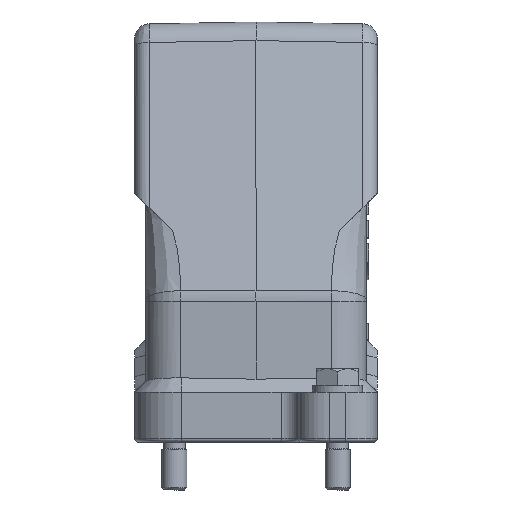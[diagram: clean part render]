
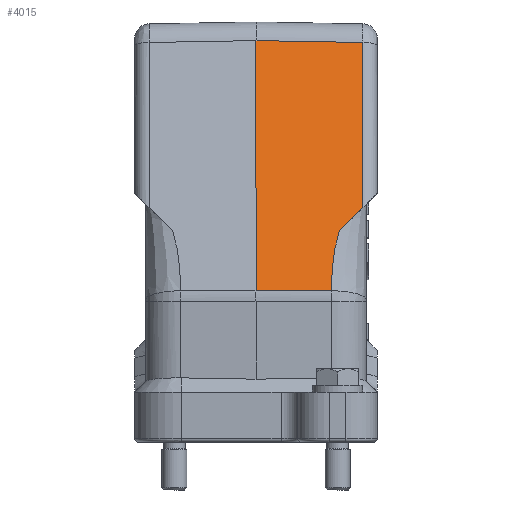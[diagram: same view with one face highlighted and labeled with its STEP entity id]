
A CAD part, left-side view. The second image highlights one B-rep face of the part: STEP entity #4015.
In plain terms, the highlighted planar face has unit normal (-0.966, -0.018, 0.259).
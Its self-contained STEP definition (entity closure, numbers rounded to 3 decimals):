
#3556=FACE_OUTER_BOUND('',#4977,.T.);
#4015=ADVANCED_FACE('',(#3556),#4544,.F.);
#4544=PLANE('',#12924);
#4977=EDGE_LOOP('',(#7116,#7117,#7118,#7119,#7120,#7121));
#5609=LINE('',#17277,#6336);
#5610=LINE('',#17280,#6337);
#5611=LINE('',#17282,#6338);
#5612=LINE('',#17313,#6339);
#6336=VECTOR('',#13666,1.);
#6337=VECTOR('',#13667,1.);
#6338=VECTOR('',#13668,1.);
#6339=VECTOR('',#13669,1.);
#7116=ORIENTED_EDGE('',*,*,#10432,.F.);
#7117=ORIENTED_EDGE('',*,*,#10433,.F.);
#7118=ORIENTED_EDGE('',*,*,#10434,.F.);
#7119=ORIENTED_EDGE('',*,*,#10435,.F.);
#7120=ORIENTED_EDGE('',*,*,#10436,.F.);
#7121=ORIENTED_EDGE('',*,*,#10437,.F.);
#9618=VERTEX_POINT('',#17278);
#9619=VERTEX_POINT('',#17279);
#9620=VERTEX_POINT('',#17281);
#9621=VERTEX_POINT('',#17283);
#9622=VERTEX_POINT('',#17307);
#9623=VERTEX_POINT('',#17312);
#10432=EDGE_CURVE('',#9618,#9619,#5609,.T.);
#10433=EDGE_CURVE('',#9620,#9618,#5610,.T.);
#10434=EDGE_CURVE('',#9621,#9620,#5611,.T.);
#10435=EDGE_CURVE('',#9622,#9621,#12031,.T.);
#10436=EDGE_CURVE('',#9623,#9622,#12032,.T.);
#10437=EDGE_CURVE('',#9619,#9623,#5612,.T.);
#12031=B_SPLINE_CURVE_WITH_KNOTS('',3,(#17284,#17285,#17286,#17287,#17288,
#17289,#17290,#17291,#17292,#17293,#17294,#17295,#17296,#17297,#17298,#17299,
#17300,#17301,#17302,#17303,#17304,#17305,#17306),.UNSPECIFIED.,.F.,.F.,
(4,1,1,1,1,1,1,1,1,1,1,1,1,1,1,1,1,1,1,1,4),(0.,0.132,0.261,
0.324,0.387,0.511,0.572,
0.634,0.695,0.756,0.787,
0.818,0.848,0.879,0.894,
0.909,0.925,0.94,0.97,
0.986,1.),.UNSPECIFIED.);
#12032=B_SPLINE_CURVE_WITH_KNOTS('',3,(#17308,#17309,#17310,#17311),
 .UNSPECIFIED.,.F.,.F.,(4,4),(0.,1.),.UNSPECIFIED.);
#12924=AXIS2_PLACEMENT_3D('',#17314,#13670,#13671);
#13666=DIRECTION('',(0.013,-1.,-0.017));
#13667=DIRECTION('',(0.259,0.,0.966));
#13668=DIRECTION('',(-0.017,1.,0.002));
#13669=DIRECTION('',(-0.259,0.,-0.966));
#13670=DIRECTION('',(0.966,0.017,-0.259));
#13671=DIRECTION('',(0.259,0.,0.966));
#17277=CARTESIAN_POINT('',(-35.141,0.,78.054));
#17278=CARTESIAN_POINT('',(-35.141,0.,78.054));
#17279=CARTESIAN_POINT('',(-34.798,-25.561,77.607));
#17280=CARTESIAN_POINT('',(-51.159,0.,18.271));
#17281=CARTESIAN_POINT('',(-51.159,0.,18.271));
#17282=CARTESIAN_POINT('',(-50.844,-18.054,18.23));
#17283=CARTESIAN_POINT('',(-50.844,-18.054,18.23));
#17284=CARTESIAN_POINT('',(-46.966,-19.921,32.578));
#17285=CARTESIAN_POINT('',(-47.127,-19.725,31.991));
#17286=CARTESIAN_POINT('',(-47.45,-19.372,30.81));
#17287=CARTESIAN_POINT('',(-47.86,-19.017,29.301));
#17288=CARTESIAN_POINT('',(-48.187,-18.785,28.097));
#17289=CARTESIAN_POINT('',(-48.511,-18.586,26.903));
#17290=CARTESIAN_POINT('',(-48.835,-18.43,25.704));
#17291=CARTESIAN_POINT('',(-49.158,-18.31,24.504));
#17292=CARTESIAN_POINT('',(-49.4,-18.237,23.606));
#17293=CARTESIAN_POINT('',(-49.642,-18.179,22.708));
#17294=CARTESIAN_POINT('',(-49.843,-18.142,21.959));
#17295=CARTESIAN_POINT('',(-50.004,-18.118,21.36));
#17296=CARTESIAN_POINT('',(-50.125,-18.103,20.911));
#17297=CARTESIAN_POINT('',(-50.245,-18.09,20.462));
#17298=CARTESIAN_POINT('',(-50.346,-18.081,20.088));
#17299=CARTESIAN_POINT('',(-50.426,-18.075,19.788));
#17300=CARTESIAN_POINT('',(-50.486,-18.07,19.564));
#17301=CARTESIAN_POINT('',(-50.547,-18.067,19.339));
#17302=CARTESIAN_POINT('',(-50.627,-18.062,19.04));
#17303=CARTESIAN_POINT('',(-50.707,-18.059,18.741));
#17304=CARTESIAN_POINT('',(-50.786,-18.056,18.446));
#17305=CARTESIAN_POINT('',(-50.825,-18.055,18.3));
#17306=CARTESIAN_POINT('',(-50.844,-18.054,18.23));
#17307=CARTESIAN_POINT('',(-46.966,-19.921,32.578));
#17308=CARTESIAN_POINT('',(-45.379,-25.561,38.121));
#17309=CARTESIAN_POINT('',(-45.908,-23.681,36.273));
#17310=CARTESIAN_POINT('',(-46.437,-21.801,34.426));
#17311=CARTESIAN_POINT('',(-46.966,-19.921,32.578));
#17312=CARTESIAN_POINT('',(-45.379,-25.561,38.121));
#17313=CARTESIAN_POINT('',(-34.798,-25.561,77.607));
#17314=CARTESIAN_POINT('',(-51.534,0.,16.872));
